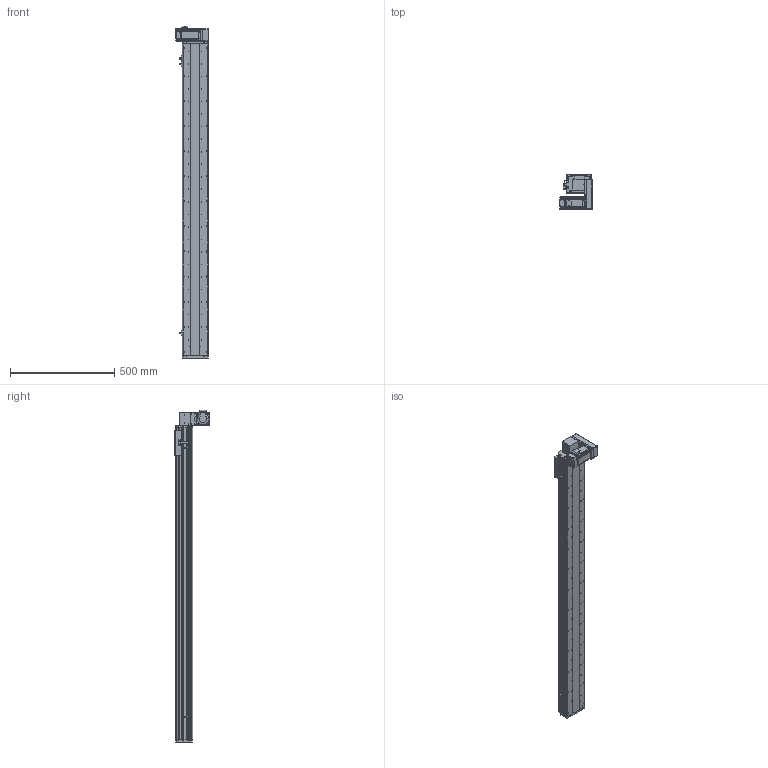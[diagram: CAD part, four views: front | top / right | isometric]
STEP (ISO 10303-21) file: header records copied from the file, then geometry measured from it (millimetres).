
FILE_DESCRIPTION (( 'STEP AP214' ), '1' );
FILE_NAME ('KSD125B-S1300-MLD-CM.STEP', '2017-10-21T03:01:14', ( '微软用户' ), ( '微软中国' ), 'SwSTEP 2.0', 'SolidWorks 2014', '' );
FILE_SCHEMA (( 'AUTOMOTIVE_DESIGN' ));
Length unit declared in the file: millimetre
Products named in the file (17): 悵誘欶奻狟殏; 100宽马达安装板连板上下折丝杆同步带; HTPA30S3M150_A_H6_a佪裝蚚; HTPA30S3M150_A_H6_a萇儂蚚; 100宽马达安装板同步带左; KSD125模组1300行程同步带-防尘盖; 125模组1300行程同步带-底板; MHMD042G1CA_2_03; KSD125模组同步带-防撞垫2; 覜茼え68遵圉猾敕; U倰嫖萇假蚾璃; U倰嫖萇EEㄜSX672; KSD125模组同步带-防撞垫1; 前端板-125宽模组同步带; 125模组同步带-尾端板1; KSD125模组同步带-滑动座1; KSD125B-S1300-MLD-CM
Assembly tree (20 placements, depth 2):
  KSD125B-S1300-MLD-CM
    KSD125模组同步带-滑动座1
    125模组同步带-尾端板1
    前端板-125宽模组同步带
    KSD125模组同步带-防撞垫1
    U倰嫖萇EEㄜSX672  x3
    U倰嫖萇假蚾璃  x3
    覜茼え68遵圉猾敕
    KSD125模组同步带-防撞垫2
    MHMD042G1CA_2_03
    125模组1300行程同步带-底板
    KSD125模组1300行程同步带-防尘盖
    100宽马达安装板同步带左
    HTPA30S3M150_A_H6_a萇儂蚚
    HTPA30S3M150_A_H6_a佪裝蚚
    100宽马达安装板连板上下折丝杆同步带
    悵誘欶奻狟殏
Bounding box: 155 x 166.5 x 1589 mm (x, y, z)
Volume: 4725648.6 mm3; surface area: 1573319.4 mm2
Topology: 19 solids, 22 shells, 2355 faces, 6835 edges, 4518 vertices
Faces by surface type: cylinder 1496, plane 732, cone 105, bspline 22
Entity records: 84241 total; most frequent: CARTESIAN_POINT 16603, DIRECTION 13080, ORIENTED_EDGE 12190, EDGE_CURVE 6173, AXIS2_PLACEMENT_3D 5071, VERTEX_POINT 4110, LINE 2938, VECTOR 2938
